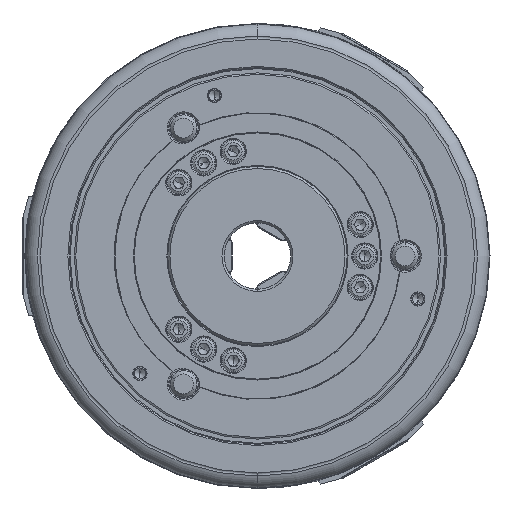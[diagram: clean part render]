
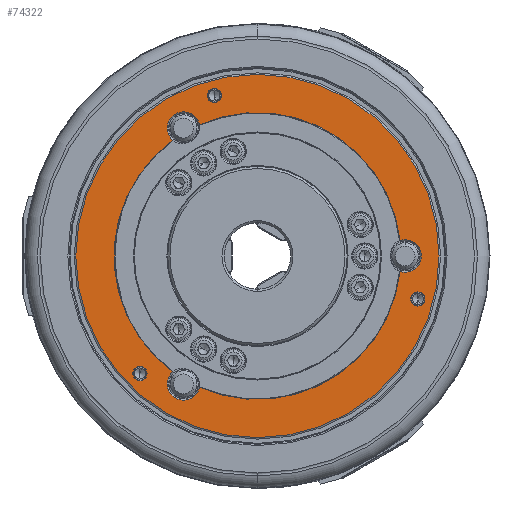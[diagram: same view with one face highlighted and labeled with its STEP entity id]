
A CAD part, left-side view. The second image highlights one B-rep face of the part: STEP entity #74322.
In plain terms, the highlighted planar face has unit normal (-1, 0, 0) as drawn and (0, 0, -1) by its records, which use the part's own axes.
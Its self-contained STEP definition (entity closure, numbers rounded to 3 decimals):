
#663 = DIRECTION ( 'NONE',  ( -1., 0., 0. ) ) ;
#1329 = EDGE_LOOP ( 'NONE', ( #20413, #42398 ) ) ;
#2851 = FACE_BOUND ( 'NONE', #1329, .T. ) ;
#4026 = CIRCLE ( 'NONE', #17912, 7.35 ) ;
#4462 = DIRECTION ( 'NONE',  ( 0., 0., 1. ) ) ;
#4503 = ORIENTED_EDGE ( 'NONE', *, *, #61186, .F. ) ;
#4630 = CARTESIAN_POINT ( 'NONE',  ( 22.611, -72.444, -86. ) ) ;
#4758 = CARTESIAN_POINT ( 'NONE',  ( 49.833, 53.033, -86. ) ) ;
#5733 = DIRECTION ( 'NONE',  ( 1., 0., 0. ) ) ;
#7104 = DIRECTION ( 'NONE',  ( 0.5, 0.866, 0. ) ) ;
#7589 = VERTEX_POINT ( 'NONE', #62754 ) ;
#8216 = VERTEX_POINT ( 'NONE', #48959 ) ;
#10558 = CARTESIAN_POINT ( 'NONE',  ( 6.98, -64.373, -86. ) ) ;
#10570 = CARTESIAN_POINT ( 'NONE',  ( 56.075, 32.375, -86. ) ) ;
#11148 = VERTEX_POINT ( 'NONE', #26579 ) ;
#11291 = AXIS2_PLACEMENT_3D ( 'NONE', #21510, #57675, #50932 ) ;
#12266 = DIRECTION ( 'NONE',  ( 0.5, -0.866, 0. ) ) ;
#13472 = CIRCLE ( 'NONE', #21171, 7.35 ) ;
#13477 = CIRCLE ( 'NONE', #85801, 3.2 ) ;
#13703 = CARTESIAN_POINT ( 'NONE',  ( 53.033, 53.033, -86. ) ) ;
#13759 = AXIS2_PLACEMENT_3D ( 'NONE', #55252, #90951, #32113 ) ;
#14808 = DIRECTION ( 'NONE',  ( 0., 0., -1. ) ) ;
#15594 = DIRECTION ( 'NONE',  ( 0., 0., -1. ) ) ;
#16302 = CARTESIAN_POINT ( 'NONE',  ( 19.411, -72.444, -86. ) ) ;
#16826 = PLANE ( 'NONE',  #43710 ) ;
#17580 = CARTESIAN_POINT ( 'NONE',  ( -52.258, 38.231, -86. ) ) ;
#17766 = DIRECTION ( 'NONE',  ( 0., 0., 1. ) ) ;
#17833 = AXIS2_PLACEMENT_3D ( 'NONE', #33470, #92315, #12266 ) ;
#17865 = ORIENTED_EDGE ( 'NONE', *, *, #49538, .F. ) ;
#17912 = AXIS2_PLACEMENT_3D ( 'NONE', #75188, #69384, #75670 ) ;
#18215 = AXIS2_PLACEMENT_3D ( 'NONE', #81792, #14808, #7104 ) ;
#19146 = DIRECTION ( 'NONE',  ( 1., 0., 0. ) ) ;
#20413 = ORIENTED_EDGE ( 'NONE', *, *, #73712, .F. ) ;
#21171 = AXIS2_PLACEMENT_3D ( 'NONE', #33338, #61809, #47840 ) ;
#21365 = ORIENTED_EDGE ( 'NONE', *, *, #89393, .T. ) ;
#21510 = CARTESIAN_POINT ( 'NONE',  ( -72.444, 19.411, -86. ) ) ;
#21770 = CARTESIAN_POINT ( 'NONE',  ( -75.644, 19.411, -86. ) ) ;
#21988 = DIRECTION ( 'NONE',  ( 0., 0., -1. ) ) ;
#22614 = DIRECTION ( 'NONE',  ( 0., 0., -1. ) ) ;
#24358 = CIRCLE ( 'NONE', #64395, 3.2 ) ;
#25357 = CIRCLE ( 'NONE', #56177, 82. ) ;
#26372 = EDGE_LOOP ( 'NONE', ( #68600, #70154, #17865, #50737, #21365, #57406 ) ) ;
#26384 = CARTESIAN_POINT ( 'NONE',  ( -57.742, 33.338, -86. ) ) ;
#26579 = CARTESIAN_POINT ( 'NONE',  ( 52.258, 38.231, -86. ) ) ;
#27543 = ORIENTED_EDGE ( 'NONE', *, *, #50878, .F. ) ;
#27782 = CARTESIAN_POINT ( 'NONE',  ( -72.444, 19.411, -86. ) ) ;
#29586 = CARTESIAN_POINT ( 'NONE',  ( -6.98, -64.373, -86. ) ) ;
#30667 = CIRCLE ( 'NONE', #13759, 3.2 ) ;
#31522 = VERTEX_POINT ( 'NONE', #4758 ) ;
#32113 = DIRECTION ( 'NONE',  ( -1., 0., 0. ) ) ;
#32731 = FACE_BOUND ( 'NONE', #84738, .T. ) ;
#33338 = CARTESIAN_POINT ( 'NONE',  ( 0., -66.675, -86. ) ) ;
#33470 = CARTESIAN_POINT ( 'NONE',  ( 0., 0., -86. ) ) ;
#33497 = CIRCLE ( 'NONE', #68950, 64.75 ) ;
#33859 = DIRECTION ( 'NONE',  ( 1., 0., 0. ) ) ;
#36224 = VERTEX_POINT ( 'NONE', #4630 ) ;
#36351 = AXIS2_PLACEMENT_3D ( 'NONE', #26384, #72149, #19146 ) ;
#37167 = AXIS2_PLACEMENT_3D ( 'NONE', #71450, #4462, #33859 ) ;
#37278 = EDGE_CURVE ( 'NONE', #7589, #87102, #67496, .T. ) ;
#38129 = ORIENTED_EDGE ( 'NONE', *, *, #95051, .F. ) ;
#38383 = EDGE_CURVE ( 'NONE', #63145, #31522, #30667, .T. ) ;
#38970 = DIRECTION ( 'NONE',  ( -1., 0., 0. ) ) ;
#39974 = FACE_BOUND ( 'NONE', #71013, .T. ) ;
#40189 = AXIS2_PLACEMENT_3D ( 'NONE', #13703, #15594, #663 ) ;
#41704 = CIRCLE ( 'NONE', #40189, 3.2 ) ;
#42398 = ORIENTED_EDGE ( 'NONE', *, *, #92965, .F. ) ;
#42887 = CARTESIAN_POINT ( 'NONE',  ( -59.238, 26.141, -86. ) ) ;
#42910 = CARTESIAN_POINT ( 'NONE',  ( 16.211, -72.444, -86. ) ) ;
#43710 = AXIS2_PLACEMENT_3D ( 'NONE', #10570, #47704, #45783 ) ;
#44338 = CARTESIAN_POINT ( 'NONE',  ( 0., 0., -86. ) ) ;
#45120 = VERTEX_POINT ( 'NONE', #42910 ) ;
#45783 = DIRECTION ( 'NONE',  ( -1., 0., 0. ) ) ;
#47704 = DIRECTION ( 'NONE',  ( 0., 0., -1. ) ) ;
#47824 = AXIS2_PLACEMENT_3D ( 'NONE', #85321, #78090, #83901 ) ;
#47840 = DIRECTION ( 'NONE',  ( -0.5, 0.866, 0. ) ) ;
#48959 = CARTESIAN_POINT ( 'NONE',  ( 82., 0., -86. ) ) ;
#49135 = DIRECTION ( 'NONE',  ( 0., 0., 1. ) ) ;
#49538 = EDGE_CURVE ( 'NONE', #11148, #7589, #4026, .T. ) ;
#50737 = ORIENTED_EDGE ( 'NONE', *, *, #85826, .T. ) ;
#50878 = EDGE_CURVE ( 'NONE', #8216, #81756, #25357, .T. ) ;
#50932 = DIRECTION ( 'NONE',  ( -1., 0., 0. ) ) ;
#50987 = CIRCLE ( 'NONE', #37167, 82. ) ;
#51515 = CARTESIAN_POINT ( 'NONE',  ( 56.233, 53.033, -86. ) ) ;
#51969 = EDGE_CURVE ( 'NONE', #76251, #79844, #59406, .T. ) ;
#52832 = CIRCLE ( 'NONE', #11291, 3.2 ) ;
#53635 = VERTEX_POINT ( 'NONE', #21770 ) ;
#53677 = ORIENTED_EDGE ( 'NONE', *, *, #38383, .F. ) ;
#54546 = CARTESIAN_POINT ( 'NONE',  ( -82., 0., -86. ) ) ;
#55252 = CARTESIAN_POINT ( 'NONE',  ( 53.033, 53.033, -86. ) ) ;
#56177 = AXIS2_PLACEMENT_3D ( 'NONE', #93003, #49135, #5733 ) ;
#57406 = ORIENTED_EDGE ( 'NONE', *, *, #51969, .F. ) ;
#57675 = DIRECTION ( 'NONE',  ( 0., 0., -1. ) ) ;
#59406 = CIRCLE ( 'NONE', #17833, 64.75 ) ;
#59784 = VERTEX_POINT ( 'NONE', #85544 ) ;
#60677 = DIRECTION ( 'NONE',  ( 1., 0., 0. ) ) ;
#61136 = ORIENTED_EDGE ( 'NONE', *, *, #61460, .F. ) ;
#61186 = EDGE_CURVE ( 'NONE', #31522, #63145, #41704, .T. ) ;
#61460 = EDGE_CURVE ( 'NONE', #81756, #8216, #50987, .T. ) ;
#61809 = DIRECTION ( 'NONE',  ( 0., 0., 1. ) ) ;
#62754 = CARTESIAN_POINT ( 'NONE',  ( 59.238, 26.141, -86. ) ) ;
#63145 = VERTEX_POINT ( 'NONE', #51515 ) ;
#64395 = AXIS2_PLACEMENT_3D ( 'NONE', #27782, #21988, #72130 ) ;
#67496 = CIRCLE ( 'NONE', #18215, 64.75 ) ;
#68600 = ORIENTED_EDGE ( 'NONE', *, *, #92386, .T. ) ;
#68950 = AXIS2_PLACEMENT_3D ( 'NONE', #44338, #17766, #60677 ) ;
#69384 = DIRECTION ( 'NONE',  ( 0., 0., -1. ) ) ;
#70154 = ORIENTED_EDGE ( 'NONE', *, *, #37278, .F. ) ;
#71013 = EDGE_LOOP ( 'NONE', ( #4503, #53677 ) ) ;
#71450 = CARTESIAN_POINT ( 'NONE',  ( 0., 0., -86. ) ) ;
#72130 = DIRECTION ( 'NONE',  ( -1., 0., 0. ) ) ;
#72149 = DIRECTION ( 'NONE',  ( 0., 0., 1. ) ) ;
#73712 = EDGE_CURVE ( 'NONE', #53635, #59784, #52832, .T. ) ;
#74322 = ADVANCED_FACE ( 'NONE', ( #2851, #32731, #39974, #83376, #90137 ), #16826, .T. ) ;
#75188 = CARTESIAN_POINT ( 'NONE',  ( 57.742, 33.338, -86. ) ) ;
#75670 = DIRECTION ( 'NONE',  ( -1., 0., 0. ) ) ;
#76251 = VERTEX_POINT ( 'NONE', #29586 ) ;
#77005 = CIRCLE ( 'NONE', #47824, 3.2 ) ;
#77911 = CIRCLE ( 'NONE', #36351, 7.35 ) ;
#78090 = DIRECTION ( 'NONE',  ( 0., 0., -1. ) ) ;
#79844 = VERTEX_POINT ( 'NONE', #42887 ) ;
#81756 = VERTEX_POINT ( 'NONE', #54546 ) ;
#81792 = CARTESIAN_POINT ( 'NONE',  ( 0., 0., -86. ) ) ;
#83376 = FACE_BOUND ( 'NONE', #26372, .T. ) ;
#83901 = DIRECTION ( 'NONE',  ( -1., 0., 0. ) ) ;
#84738 = EDGE_LOOP ( 'NONE', ( #93833, #38129 ) ) ;
#85321 = CARTESIAN_POINT ( 'NONE',  ( 19.411, -72.444, -86. ) ) ;
#85544 = CARTESIAN_POINT ( 'NONE',  ( -69.244, 19.411, -86. ) ) ;
#85695 = EDGE_LOOP ( 'NONE', ( #27543, #61136 ) ) ;
#85801 = AXIS2_PLACEMENT_3D ( 'NONE', #16302, #22614, #38970 ) ;
#85826 = EDGE_CURVE ( 'NONE', #11148, #92259, #33497, .T. ) ;
#87102 = VERTEX_POINT ( 'NONE', #10558 ) ;
#89393 = EDGE_CURVE ( 'NONE', #92259, #79844, #77911, .T. ) ;
#90137 = FACE_OUTER_BOUND ( 'NONE', #85695, .T. ) ;
#90758 = EDGE_CURVE ( 'NONE', #45120, #36224, #13477, .T. ) ;
#90951 = DIRECTION ( 'NONE',  ( 0., 0., -1. ) ) ;
#92259 = VERTEX_POINT ( 'NONE', #17580 ) ;
#92315 = DIRECTION ( 'NONE',  ( 0., 0., -1. ) ) ;
#92386 = EDGE_CURVE ( 'NONE', #76251, #87102, #13472, .T. ) ;
#92965 = EDGE_CURVE ( 'NONE', #59784, #53635, #24358, .T. ) ;
#93003 = CARTESIAN_POINT ( 'NONE',  ( 0., 0., -86. ) ) ;
#93833 = ORIENTED_EDGE ( 'NONE', *, *, #90758, .F. ) ;
#95051 = EDGE_CURVE ( 'NONE', #36224, #45120, #77005, .T. ) ;
